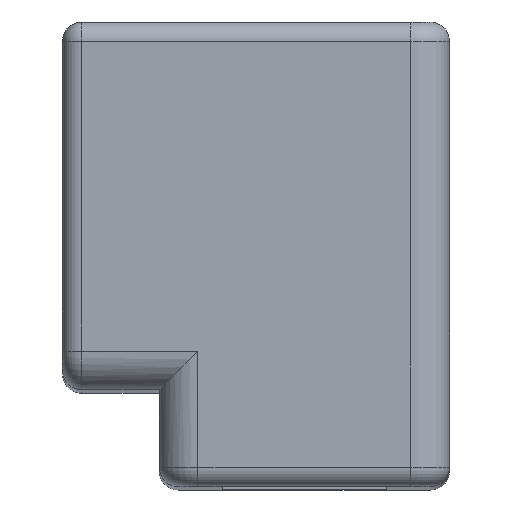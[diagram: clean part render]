
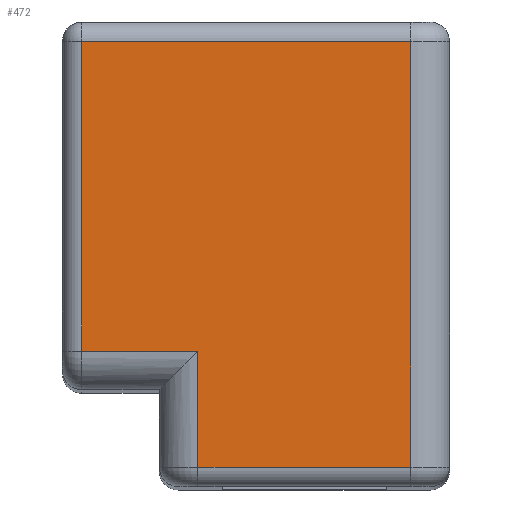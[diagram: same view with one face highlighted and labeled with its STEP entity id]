
A CAD part, top view. The second image highlights one B-rep face of the part: STEP entity #472.
In plain terms, the highlighted planar face has unit normal (0, 0, 1).
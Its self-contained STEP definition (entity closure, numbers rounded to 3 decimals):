
#30 = EDGE_CURVE ( 'NONE', #750, #711, #234, .T. ) ;
#40 = EDGE_CURVE ( 'NONE', #755, #760, #223, .T. ) ;
#68 = EDGE_CURVE ( 'NONE', #750, #748, #209, .T. ) ;
#74 = AXIS2_PLACEMENT_3D ( 'NONE', #674, #667, #666 ) ;
#95 = LINE ( 'NONE', #780, #116 ) ;
#116 = VECTOR ( 'NONE', #769, 1000. ) ;
#125 = VECTOR ( 'NONE', #829, 1000. ) ;
#126 = LINE ( 'NONE', #830, #125 ) ;
#176 = VECTOR ( 'NONE', #878, 1000. ) ;
#178 = LINE ( 'NONE', #879, #176 ) ;
#205 = VECTOR ( 'NONE', #905, 1000. ) ;
#209 = LINE ( 'NONE', #908, #205 ) ;
#221 = VECTOR ( 'NONE', #549, 1000. ) ;
#223 = LINE ( 'NONE', #568, #221 ) ;
#230 = VECTOR ( 'NONE', #566, 1000. ) ;
#234 = LINE ( 'NONE', #601, #230 ) ;
#241 = EDGE_LOOP ( 'NONE', ( #309, #310, #311, #312, #313, #314 ) ) ;
#309 = ORIENTED_EDGE ( 'NONE', *, *, #68, .F. ) ;
#310 = ORIENTED_EDGE ( 'NONE', *, *, #30, .T. ) ;
#311 = ORIENTED_EDGE ( 'NONE', *, *, #449, .T. ) ;
#312 = ORIENTED_EDGE ( 'NONE', *, *, #410, .T. ) ;
#313 = ORIENTED_EDGE ( 'NONE', *, *, #40, .T. ) ;
#314 = ORIENTED_EDGE ( 'NONE', *, *, #432, .F. ) ;
#410 = EDGE_CURVE ( 'NONE', #759, #755, #178, .T. ) ;
#432 = EDGE_CURVE ( 'NONE', #748, #760, #126, .T. ) ;
#449 = EDGE_CURVE ( 'NONE', #711, #759, #95, .T. ) ;
#472 = ADVANCED_FACE ( 'NONE', ( #957 ), #677, .T. ) ;
#544 = CARTESIAN_POINT ( 'NONE',  ( -11.5, 7., 98.5 ) ) ;
#545 = CARTESIAN_POINT ( 'NONE',  ( 5.5, 23., 98.5 ) ) ;
#547 = CARTESIAN_POINT ( 'NONE',  ( -11.5, 23., 98.5 ) ) ;
#549 = DIRECTION ( 'NONE',  ( 0., -1., 0. ) ) ;
#550 = CARTESIAN_POINT ( 'NONE',  ( -5.5, 1., 98.5 ) ) ;
#552 = CARTESIAN_POINT ( 'NONE',  ( -5.5, 7., 98.5 ) ) ;
#566 = DIRECTION ( 'NONE',  ( 1., 0., 0. ) ) ;
#568 = CARTESIAN_POINT ( 'NONE',  ( -11.5, 7., 98.5 ) ) ;
#572 = CARTESIAN_POINT ( 'NONE',  ( 5.5, 1., 98.5 ) ) ;
#601 = CARTESIAN_POINT ( 'NONE',  ( -5.5, 1., 98.5 ) ) ;
#666 = DIRECTION ( 'NONE',  ( 0., -1., 0. ) ) ;
#667 = DIRECTION ( 'NONE',  ( 0., 0., 1. ) ) ;
#674 = CARTESIAN_POINT ( 'NONE',  ( -5.5, 0., 98.5 ) ) ;
#677 = PLANE ( 'NONE',  #74 ) ;
#711 = VERTEX_POINT ( 'NONE', #572 ) ;
#748 = VERTEX_POINT ( 'NONE', #552 ) ;
#750 = VERTEX_POINT ( 'NONE', #550 ) ;
#755 = VERTEX_POINT ( 'NONE', #547 ) ;
#759 = VERTEX_POINT ( 'NONE', #545 ) ;
#760 = VERTEX_POINT ( 'NONE', #544 ) ;
#769 = DIRECTION ( 'NONE',  ( 0., 1., 0. ) ) ;
#780 = CARTESIAN_POINT ( 'NONE',  ( 5.5, 0., 98.5 ) ) ;
#829 = DIRECTION ( 'NONE',  ( -1., 0., 0. ) ) ;
#830 = CARTESIAN_POINT ( 'NONE',  ( -5.5, 7., 98.5 ) ) ;
#878 = DIRECTION ( 'NONE',  ( -1., 0., 0. ) ) ;
#879 = CARTESIAN_POINT ( 'NONE',  ( -12.5, 23., 98.5 ) ) ;
#905 = DIRECTION ( 'NONE',  ( 0., 1., 0. ) ) ;
#908 = CARTESIAN_POINT ( 'NONE',  ( -5.5, 0., 98.5 ) ) ;
#957 = FACE_OUTER_BOUND ( 'NONE', #241, .T. ) ;
